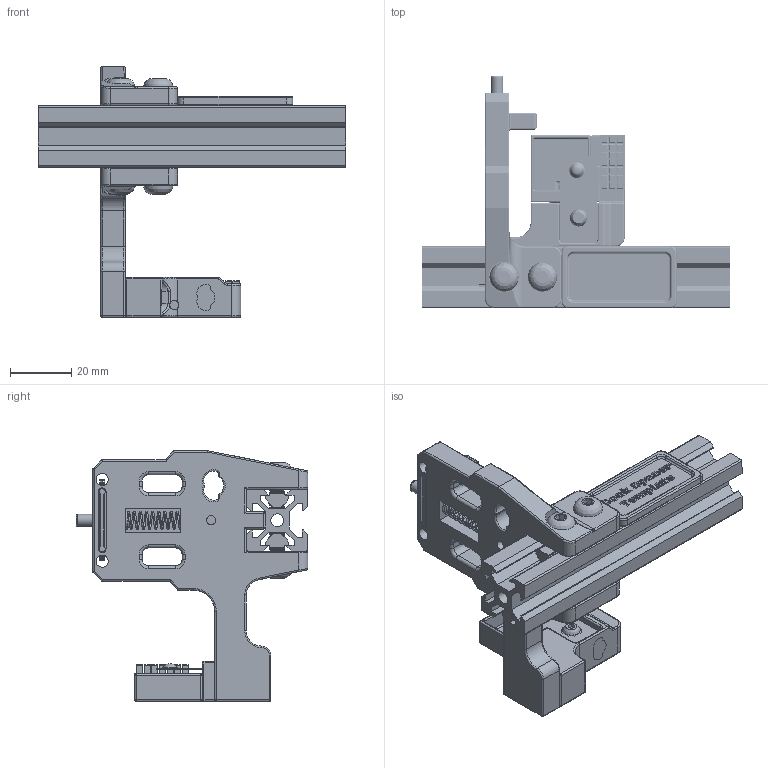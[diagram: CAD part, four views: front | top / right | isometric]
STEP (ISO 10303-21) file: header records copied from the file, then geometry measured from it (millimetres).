
FILE_DESCRIPTION(/* description */ (''),/* implementation_level */ '2;1');
FILE_NAME(/* name */ 'Lineux One r2.1 Dock v39.step',/* time_stamp */ '2025-07-25T20:51:04+07:00',/* author */ (''),/* organization */ (''),/* preprocessor_version */ 'ST-DEVELOPER v20.1',/* originating_system */ 'Autodesk Translation Framework v14.10.0.0',/* authorisation */ '');
FILE_SCHEMA (('AUTOMOTIVE_DESIGN { 1 0 10303 214 3 1 1 }'));
Products named in the file (38): Lineux One r2.1 Dock; Nozzle Blocker; Drip Tray; 6x3mm magnet (2); 6x3mm magnet (3); [a]_drip_tray; Nozzle Blocker (1); Bambulab A1 Brush; nozzle_blocker_mount (1); 6x3mm magnet (5); m3 washer (1); AA battery terminal; m3 x 10mm bhcs (4); m3 hex nut (3); 6x3mm magnet (4); m3 x 10mm bhcs (2); [a]_logo_nb; Dock; dock_1; Hardware (1); m3 x 6mm bhcs (1); 2020 Drop-in T-nut, M5; 2020 Drop-in T-nut, M5_1; m5 x 12mm bhcs (1); m5 x 12mm bhcs (3); Wire; m5 x 12mm bhcs; m5 x 12mm bhcs (2); spring OD6 ID5 20mm; m3 x OD4 16mm threaded dowel pin; m3 heat insert; 6 x 3mm n52 magnet; 8 x 5mm n52 magnet; 8 x 5mm n52 magnet (1); 2020 Drop-in T-nut, M5_2; 2020 Drop-in T-nut, M5_3; 2020 Extrusion; dock_spacer_template
Assembly tree (37 placements, depth 4):
  Lineux One r2.1 Dock
    Nozzle Blocker
      Drip Tray
        6x3mm magnet (2)
        6x3mm magnet (3)
        [a]_drip_tray
      Nozzle Blocker (1)
        Bambulab A1 Brush
        nozzle_blocker_mount (1)
        6x3mm magnet (5)
        m3 washer (1)
        AA battery terminal
        m3 x 10mm bhcs (4)
        m3 hex nut (3)
        6x3mm magnet (4)
        m3 x 10mm bhcs (2)
        [a]_logo_nb
    Dock
      dock_1
      Hardware (1)
        m3 x 6mm bhcs (1)
        2020 Drop-in T-nut, M5
        2020 Drop-in T-nut, M5_1
        m5 x 12mm bhcs (1)
        m5 x 12mm bhcs (3)
        Wire
        m5 x 12mm bhcs
        m5 x 12mm bhcs (2)
        spring OD6 ID5 20mm
        m3 x OD4 16mm threaded dowel pin
        m3 heat insert
        6 x 3mm n52 magnet
        8 x 5mm n52 magnet
        8 x 5mm n52 magnet (1)
        2020 Drop-in T-nut, M5_2
        2020 Drop-in T-nut, M5_3
    2020 Extrusion
    dock_spacer_template
Bounding box: 100 x 75.5 x 81.66 mm (x, y, z)
Volume: 57267 mm3; surface area: 45280.7 mm2
Topology: 36 solids, 36 shells, 1960 faces, 5040 edges, 3200 vertices
Faces by surface type: plane 864, cylinder 785, bspline 146, torus 93, sphere 40, cone 32
Full cylindrical faces by diameter (mm): 0.3 x14, 2.356 x52, 2.5 x5, 2.529 x11, 2.729 x1, 2.927 x49, 3 x8, 3.086 x5, 3.4 x2, 3.99 x16, 4 x3, 4.145 x2, 4.2 x2, 4.7 x1, 4.901 x36, 5.12 x12, 5.5 x4, 5.7 x3, 6 x5, 6.1 x5, 6.7 x1, 7 x1, 8 x2, 8.1 x2, 10 x2
Entity records: 116301 total; most frequent: CARTESIAN_POINT 69541, ORIENTED_EDGE 10002, DIRECTION 8675, EDGE_CURVE 5001, VERTEX_POINT 3200, AXIS2_PLACEMENT_3D 2973, LINE 2729, VECTOR 2729
